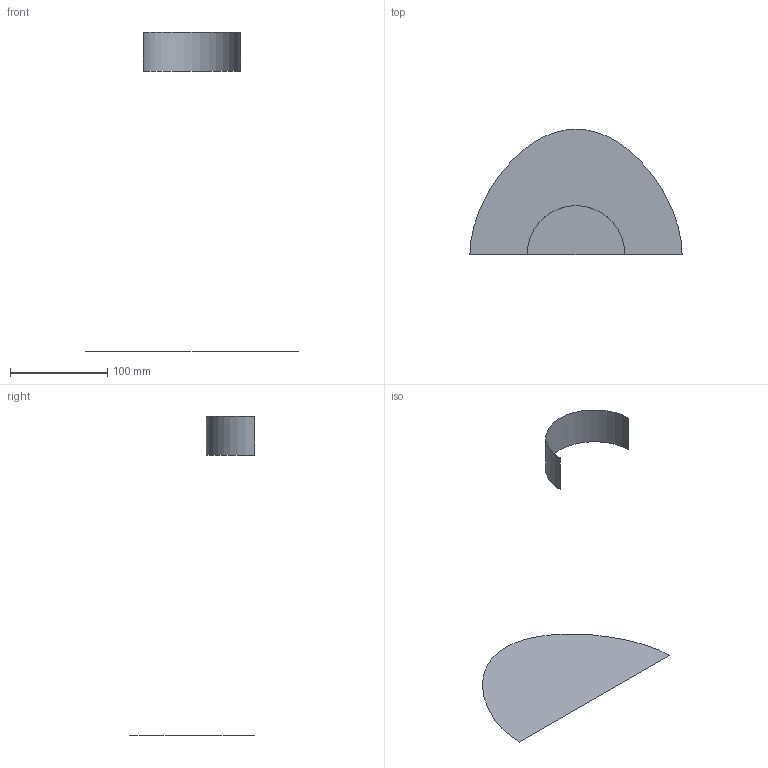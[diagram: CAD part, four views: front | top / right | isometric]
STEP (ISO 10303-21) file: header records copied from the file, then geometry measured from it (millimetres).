
FILE_DESCRIPTION(('CATIA V5 STEP Exchange'),'2;1');
FILE_NAME('C:\_Andres\UNIVERSIDAD\IQS\ASIGNATURAS\DAO\Controles\1617\c1\1original\Marra-Lopez_Llovet_Ej00-base_v19.stp','2017-02-06T16:27:44+00:00',('none'),('none'),'CATIA Version 5-6 Release 2014 SP1 HF18','CATIA V5 STEP AP203','none');
FILE_SCHEMA(('CONFIG_CONTROL_DESIGN'));
Length unit declared in the file: millimetre
Products named in the file (1): Marra-Lopez_Llovet_Ej00-base_v19
Bounding box: 218 x 129 x 328 mm (x, y, z)
Surface area: 27460.1 mm2 (no closed solid volume)
Topology: 0 solids, 2 shells, 2 faces, 16 edges, 26 vertices
Faces by surface type: cylinder 1, plane 1
Entity records: 230 total; most frequent: CARTESIAN_POINT 78, DIRECTION 16, COMPOSITE_CURVE_SEGMENT 9, TRIMMED_CURVE 9, AXIS2_PLACEMENT_3D 8, COMPOSITE_CURVE 7, ORIENTED_EDGE 7, EDGE_CURVE 7
